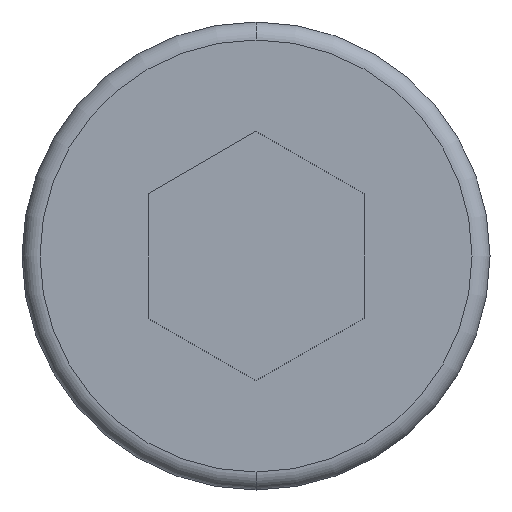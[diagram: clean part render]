
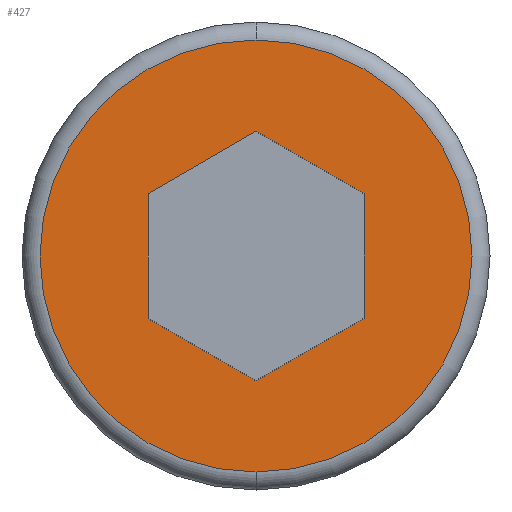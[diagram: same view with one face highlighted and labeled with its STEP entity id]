
A CAD part, front view. The second image highlights one B-rep face of the part: STEP entity #427.
In plain terms, the highlighted planar face has unit normal (0, -1, 0).
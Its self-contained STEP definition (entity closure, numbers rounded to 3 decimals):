
#33 = VECTOR ( 'NONE', #364, 1000. ) ;
#45 = VECTOR ( 'NONE', #699, 1000. ) ;
#62 = VECTOR ( 'NONE', #336, 1000. ) ;
#65 = DIRECTION ( 'NONE',  ( 0., 0., -1. ) ) ;
#74 = VERTEX_POINT ( 'NONE', #529 ) ;
#79 = EDGE_CURVE ( 'NONE', #698, #617, #376, .T. ) ;
#88 = EDGE_LOOP ( 'NONE', ( #397, #584, #663, #631, #356, #508 ) ) ;
#89 = CARTESIAN_POINT ( 'NONE',  ( 0., -8., 0. ) ) ;
#105 = CARTESIAN_POINT ( 'NONE',  ( 3., -8., -1.732 ) ) ;
#142 = DIRECTION ( 'NONE',  ( -0.866, 0., 0.5 ) ) ;
#176 = EDGE_CURVE ( 'NONE', #617, #74, #734, .T. ) ;
#196 = DIRECTION ( 'NONE',  ( 0., -1., 0. ) ) ;
#204 = CIRCLE ( 'NONE', #774, 6. ) ;
#215 = LINE ( 'NONE', #601, #337 ) ;
#218 = CARTESIAN_POINT ( 'NONE',  ( -3., -8., -1.732 ) ) ;
#219 = ORIENTED_EDGE ( 'NONE', *, *, #269, .T. ) ;
#247 = EDGE_CURVE ( 'NONE', #434, #698, #651, .T. ) ;
#254 = LINE ( 'NONE', #320, #679 ) ;
#269 = EDGE_CURVE ( 'NONE', #412, #773, #204, .T. ) ;
#283 = AXIS2_PLACEMENT_3D ( 'NONE', #308, #196, #314 ) ;
#292 = FACE_BOUND ( 'NONE', #88, .T. ) ;
#308 = CARTESIAN_POINT ( 'NONE',  ( 0., -8., 0. ) ) ;
#309 = DIRECTION ( 'NONE',  ( 0., -1., 0. ) ) ;
#314 = DIRECTION ( 'NONE',  ( 0., 0., -1. ) ) ;
#320 = CARTESIAN_POINT ( 'NONE',  ( -3., -8., 1.732 ) ) ;
#322 = EDGE_CURVE ( 'NONE', #398, #434, #254, .T. ) ;
#329 = DIRECTION ( 'NONE',  ( 0., 0., -1. ) ) ;
#335 = EDGE_CURVE ( 'NONE', #74, #637, #215, .T. ) ;
#336 = DIRECTION ( 'NONE',  ( 0.866, 0., -0.5 ) ) ;
#337 = VECTOR ( 'NONE', #142, 1000. ) ;
#356 = ORIENTED_EDGE ( 'NONE', *, *, #711, .F. ) ;
#364 = DIRECTION ( 'NONE',  ( 0., 0., 1. ) ) ;
#376 = LINE ( 'NONE', #477, #45 ) ;
#390 = DIRECTION ( 'NONE',  ( -0.866, 0., -0.5 ) ) ;
#395 = CARTESIAN_POINT ( 'NONE',  ( 3., -8., -1.732 ) ) ;
#397 = ORIENTED_EDGE ( 'NONE', *, *, #176, .F. ) ;
#398 = VERTEX_POINT ( 'NONE', #470 ) ;
#412 = VERTEX_POINT ( 'NONE', #440 ) ;
#427 = ADVANCED_FACE ( 'NONE', ( #658, #292 ), #605, .T. ) ;
#434 = VERTEX_POINT ( 'NONE', #498 ) ;
#437 = DIRECTION ( 'NONE',  ( 0., -1., 0. ) ) ;
#440 = CARTESIAN_POINT ( 'NONE',  ( 0., -8., -6. ) ) ;
#441 = CARTESIAN_POINT ( 'NONE',  ( 0., -8., 3.464 ) ) ;
#448 = CARTESIAN_POINT ( 'NONE',  ( 0., -8., -3.464 ) ) ;
#453 = EDGE_CURVE ( 'NONE', #773, #412, #513, .T. ) ;
#470 = CARTESIAN_POINT ( 'NONE',  ( -3., -8., 1.732 ) ) ;
#477 = CARTESIAN_POINT ( 'NONE',  ( 0., -8., -3.464 ) ) ;
#492 = CARTESIAN_POINT ( 'NONE',  ( 0., -8., 6. ) ) ;
#498 = CARTESIAN_POINT ( 'NONE',  ( -3., -8., -1.732 ) ) ;
#508 = ORIENTED_EDGE ( 'NONE', *, *, #335, .F. ) ;
#513 = CIRCLE ( 'NONE', #283, 6. ) ;
#523 = AXIS2_PLACEMENT_3D ( 'NONE', #657, #309, #65 ) ;
#529 = CARTESIAN_POINT ( 'NONE',  ( 3., -8., 1.732 ) ) ;
#551 = CARTESIAN_POINT ( 'NONE',  ( 0., -8., 3.464 ) ) ;
#562 = VECTOR ( 'NONE', #390, 1000. ) ;
#584 = ORIENTED_EDGE ( 'NONE', *, *, #79, .F. ) ;
#601 = CARTESIAN_POINT ( 'NONE',  ( 3., -8., 1.732 ) ) ;
#605 = PLANE ( 'NONE',  #523 ) ;
#606 = ORIENTED_EDGE ( 'NONE', *, *, #453, .T. ) ;
#617 = VERTEX_POINT ( 'NONE', #395 ) ;
#624 = EDGE_LOOP ( 'NONE', ( #219, #606 ) ) ;
#631 = ORIENTED_EDGE ( 'NONE', *, *, #322, .F. ) ;
#637 = VERTEX_POINT ( 'NONE', #441 ) ;
#651 = LINE ( 'NONE', #218, #62 ) ;
#657 = CARTESIAN_POINT ( 'NONE',  ( 0., -8., 0. ) ) ;
#658 = FACE_OUTER_BOUND ( 'NONE', #624, .T. ) ;
#663 = ORIENTED_EDGE ( 'NONE', *, *, #247, .F. ) ;
#679 = VECTOR ( 'NONE', #329, 1000. ) ;
#698 = VERTEX_POINT ( 'NONE', #448 ) ;
#699 = DIRECTION ( 'NONE',  ( 0.866, 0., 0.5 ) ) ;
#708 = LINE ( 'NONE', #551, #562 ) ;
#711 = EDGE_CURVE ( 'NONE', #637, #398, #708, .T. ) ;
#714 = DIRECTION ( 'NONE',  ( 0., 0., -1. ) ) ;
#734 = LINE ( 'NONE', #105, #33 ) ;
#773 = VERTEX_POINT ( 'NONE', #492 ) ;
#774 = AXIS2_PLACEMENT_3D ( 'NONE', #89, #437, #714 ) ;
